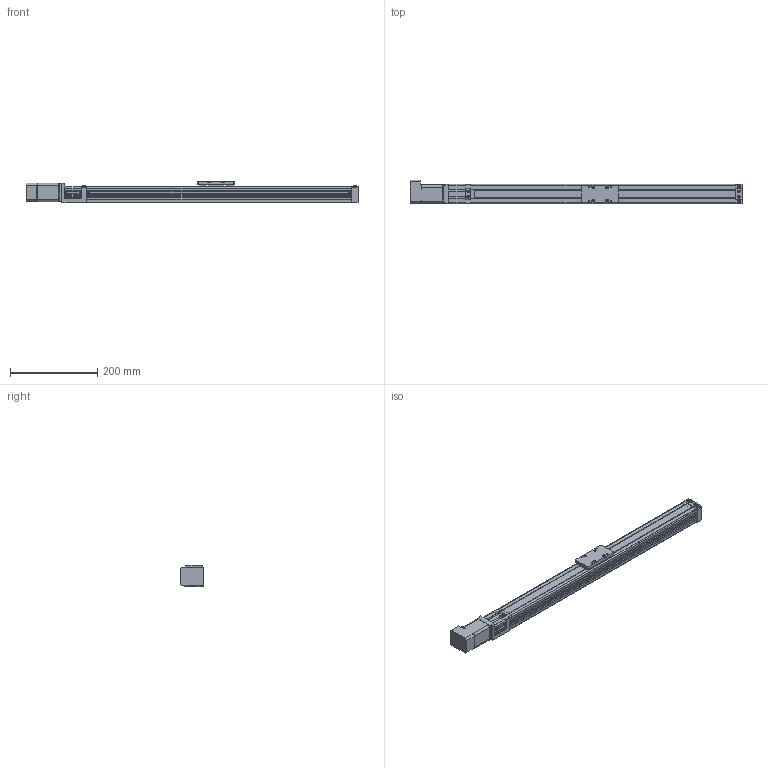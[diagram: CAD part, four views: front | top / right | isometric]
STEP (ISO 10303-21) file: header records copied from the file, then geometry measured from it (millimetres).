
FILE_DESCRIPTION((''),'2;1');
FILE_NAME('D:\製品 (図面)\カタログ用3D\SU部品\SU45×50\ダウンロード用\SU45×50-CM18\SU45×50-500-CM18.stp','2011-06-17T14:58:12',('Tsuchiya'),(''),'Autodesk Inventor 10','Autodesk Inventor 10','');
FILE_SCHEMA(('AUTOMOTIVE_DESIGN { 1 0 10303 214 1 1 1 1 }'));
Length unit declared in the file: millimetre
Products named in the file (4): SU45×50-500-CM18; SB45×50-500-MB42-1(1); SU45×50-T(1); マッスルモーター
Assembly tree (3 placements, depth 2):
  SU45×50-500-CM18
    SB45×50-500-MB42-1(1)
    SU45×50-T(1)
    マッスルモーター
Bounding box: 762.5 x 54.5 x 50 mm (x, y, z)
Volume: 532590.4 mm3; surface area: 288590.4 mm2
Topology: 3 solids, 9 shells, 781 faces, 2053 edges, 1352 vertices
Faces by surface type: plane 552, cylinder 111, bspline 82, torus 22, cone 14
Full cylindrical faces by diameter (mm): 2.459 x4, 3.242 x4, 3.4 x4, 4 x6, 4.5 x10, 5 x5, 6 x5, 7 x6, 8 x7, 10 x1, 20 x1, 22 x2, 30 x1
Entity records: 23900 total; most frequent: CARTESIAN_POINT 5428, ORIENTED_EDGE 3718, DIRECTION 3568, EDGE_CURVE 1859, VECTOR 1394, LINE 1394, VERTEX_POINT 1299, AXIS2_PLACEMENT_3D 1087
